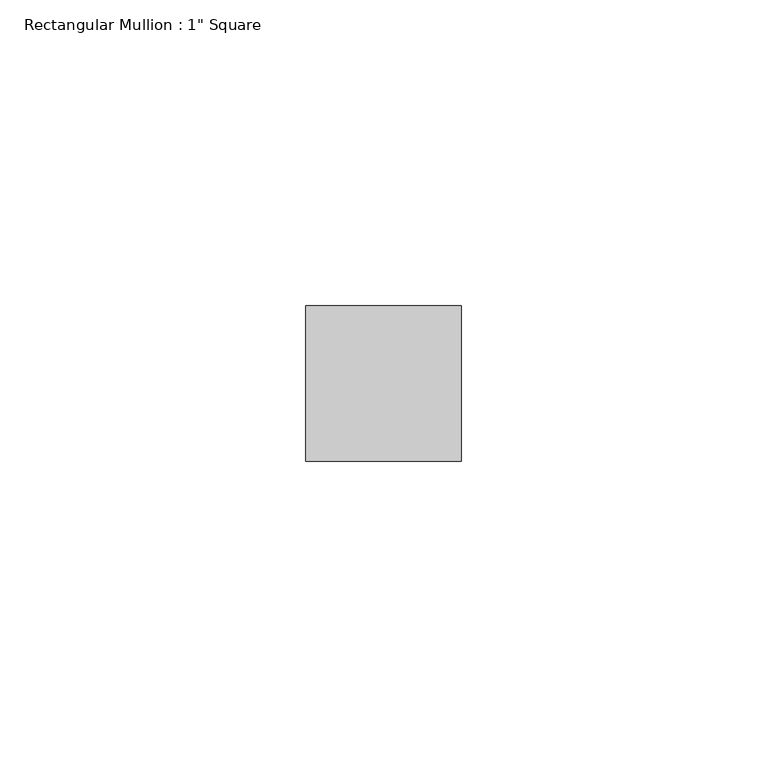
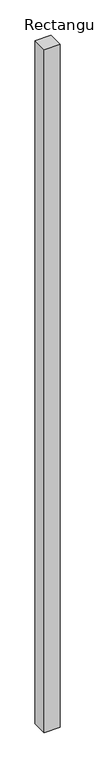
"""IFC4 building model written with IfcOpenShell, lengths in millimetres: member geometry."""

from ifc_helpers import new_model, si_unit, frame, origin, place, context, project, spatial, polyline, outline, extrude, source, transform, mapped, element, save


def member_19cfab1d(model_context):
    return source(origin(), model_context, "Body", "SweptSolid", [
        extrude(outline(polyline([(12.7, 12.7), (12.7, -12.7), (-12.7, -12.7), (-12.7, 12.7), (12.7, 12.7)])), frame((0.0, 0.0, -1176.0343836), z_axis=(0.0, 0.0, 1.0), x_axis=(1.0, 0.0, 0.0)), (0.0, 0.0, 1.0), 1176.0343836),
    ])


if __name__ == "__main__":
    model = new_model("IFC4")
    model_context = context("Model", 3, world=origin())
    ifc_project = project(units=[si_unit("LENGTHUNIT", "METRE", prefix="MILLI")], contexts=[model_context])
    site = spatial("IfcSite", under=ifc_project)
    building = spatial("IfcBuilding", under=site)
    placement = place(None, origin())
    member_shape = member_19cfab1d(model_context)
    element("IfcMember", 1, ObjectType="Rectangular Mullion : 1\" Square", at=placement, inside=building, context=model_context, shape_type="MappedRepresentation", body=[
        mapped(member_shape, transform((0.0, 0.0, 0.0), x_axis=(1.0, 0.0, 0.0), y_axis=(0.0, 1.0, 0.0), z_axis=(0.0, 0.0, 1.0))),
    ])
    save(model, "model.ifc")
